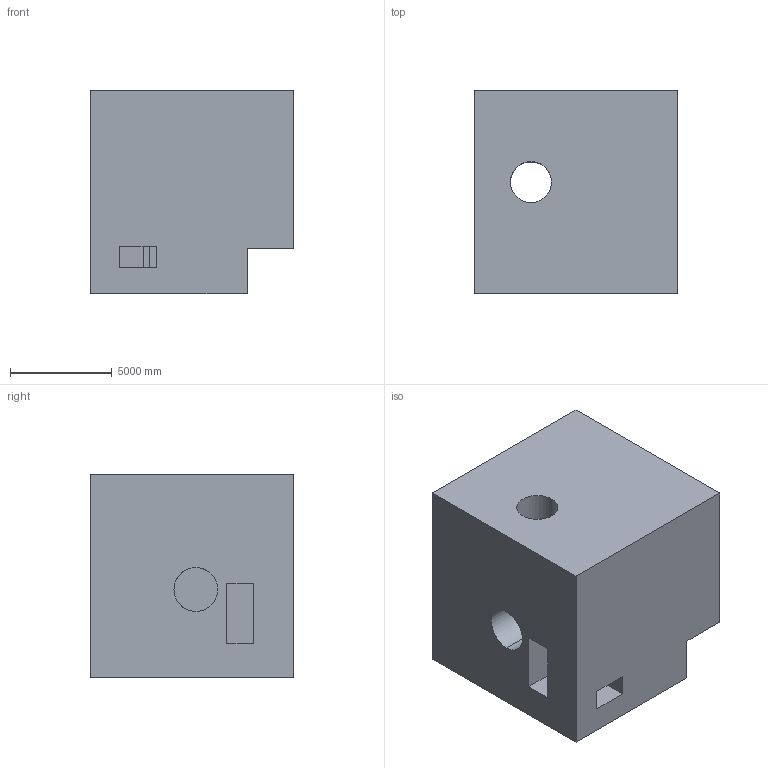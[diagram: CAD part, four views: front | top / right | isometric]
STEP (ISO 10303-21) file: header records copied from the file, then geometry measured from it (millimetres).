
FILE_DESCRIPTION (( 'STEP AP203' ), '1' );
FILE_NAME ('435.STEP', '2022-07-29T11:16:14', ( 'user' ), ( '' ), 'SwSTEP 2.0', 'SolidWorks 2021', '' );
FILE_SCHEMA (( 'CONFIG_CONTROL_DESIGN' ));
Length unit declared in the file: centimetre
Products named in the file (1): 435
Bounding box: 10000 x 10000 x 10000 mm (x, y, z)
Volume: 877316529632 mm3; surface area: 720385154.9 mm2
Topology: 1 solids, 1 shells, 31 faces, 93 edges, 62 vertices
Faces by surface type: plane 25, cylinder 6
Entity records: 1617 total; most frequent: CARTESIAN_POINT 686, ORIENTED_EDGE 186, DIRECTION 163, EDGE_CURVE 93, VECTOR 71, LINE 71, VERTEX_POINT 62, AXIS2_PLACEMENT_3D 46
